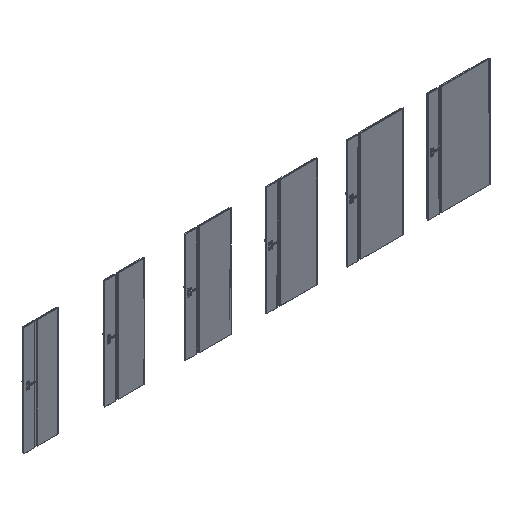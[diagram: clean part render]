
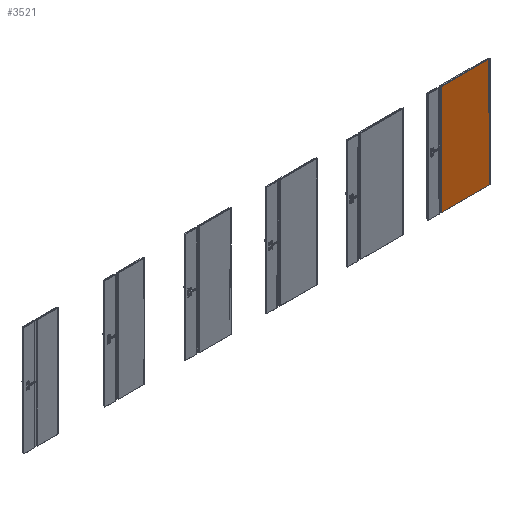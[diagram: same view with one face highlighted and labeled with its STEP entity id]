
A CAD part, isometric view. The second image highlights one B-rep face of the part: STEP entity #3521.
In plain terms, the highlighted planar face has unit normal (0, -1, 0).
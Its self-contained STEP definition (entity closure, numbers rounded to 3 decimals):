
#2357=FACE_OUTER_BOUND('',#6197,.T.);
#3521=ADVANCED_FACE('',(#2357),#4061,.F.);
#4061=PLANE('',#20166);
#6197=EDGE_LOOP('',(#11310,#11311,#11312,#11313));
#11310=ORIENTED_EDGE('',*,*,#15452,.T.);
#11311=ORIENTED_EDGE('',*,*,#15475,.T.);
#11312=ORIENTED_EDGE('',*,*,#15476,.F.);
#11313=ORIENTED_EDGE('',*,*,#15468,.F.);
#12891=VERTEX_POINT('',#38702);
#12892=VERTEX_POINT('',#38704);
#12899=VERTEX_POINT('',#38730);
#12903=VERTEX_POINT('',#38744);
#15452=EDGE_CURVE('',#12892,#12891,#16952,.T.);
#15468=EDGE_CURVE('',#12892,#12899,#16968,.T.);
#15475=EDGE_CURVE('',#12891,#12903,#16975,.T.);
#15476=EDGE_CURVE('',#12899,#12903,#16976,.T.);
#16952=LINE('',#38703,#18452);
#16968=LINE('',#38729,#18468);
#16975=LINE('',#38743,#18475);
#16976=LINE('',#38745,#18476);
#18452=VECTOR('',#24993,1.);
#18468=VECTOR('',#25015,1.);
#18475=VECTOR('',#25028,1.);
#18476=VECTOR('',#25029,1.);
#20166=AXIS2_PLACEMENT_3D('',#38746,#25030,#25031);
#24993=DIRECTION('',(0.,0.,-1.));
#25015=DIRECTION('',(1.,0.,0.));
#25028=DIRECTION('',(1.,0.,0.));
#25029=DIRECTION('',(0.,0.,-1.));
#25030=DIRECTION('',(0.,1.,0.));
#25031=DIRECTION('',(0.,0.,1.));
#38702=CARTESIAN_POINT('',(7428.,-39.3,2.));
#38703=CARTESIAN_POINT('',(7428.,-39.3,2030.));
#38704=CARTESIAN_POINT('',(7428.,-39.3,2030.));
#38729=CARTESIAN_POINT('',(7428.,-39.3,2030.));
#38730=CARTESIAN_POINT('',(8322.,-39.3,2030.));
#38743=CARTESIAN_POINT('',(7428.,-39.3,2.));
#38744=CARTESIAN_POINT('',(8322.,-39.3,2.));
#38745=CARTESIAN_POINT('',(8322.,-39.3,2030.));
#38746=CARTESIAN_POINT('',(7428.,-39.3,2030.));
